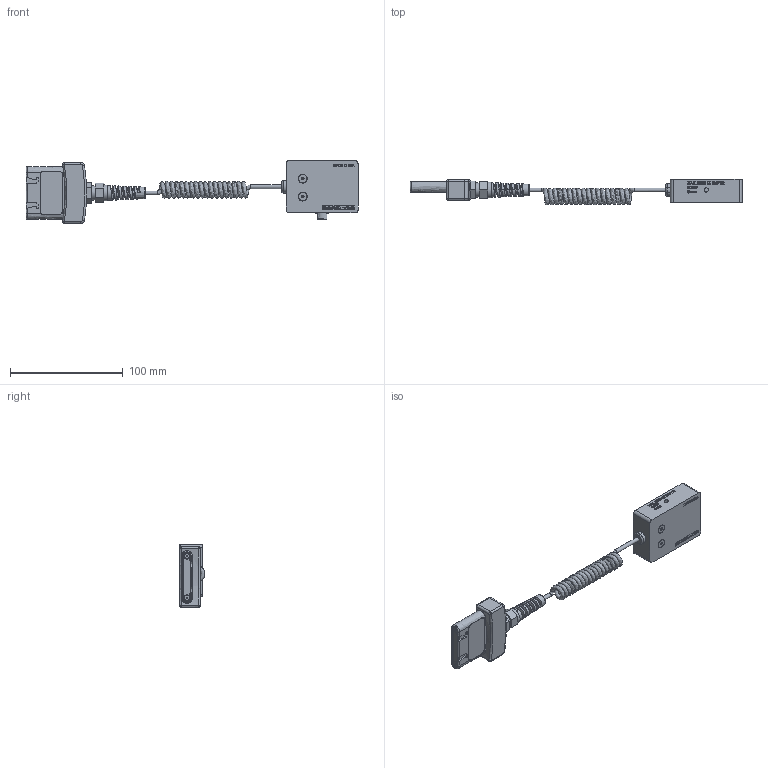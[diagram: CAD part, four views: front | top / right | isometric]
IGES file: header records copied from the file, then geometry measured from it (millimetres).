
Global section: file name: MR03; native system: Autodesk RealDWG; preprocessor: Autodesk Translation Framework DWG producer (atf_dwg_producer); organization: unknown; date: 20210820.092403; units: inch
Bounding box: 294.4 x 22.67 x 55.73 mm (x, y, z)
Volume: 103731.1 mm3; surface area: 33995.2 mm2
Topology: 1 solids, 11 shells, 2363 faces, 6447 edges, 4191 vertices
Faces by surface type: bspline 2363
